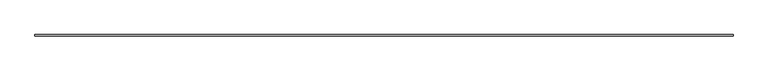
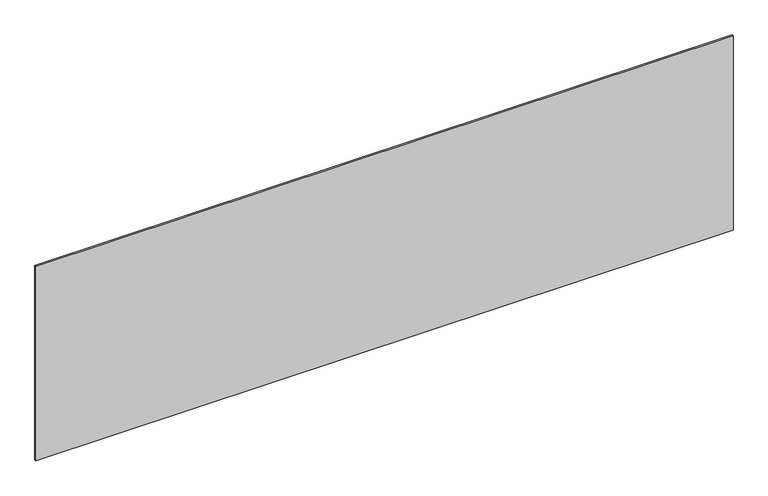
"""IFC4 building model written with IfcOpenShell, lengths in millimetres: plate geometry, システム パネル : 標準."""

from ifc_helpers import new_model, si_unit, origin, origin_with_axes, place, context, project, spatial, polyline, outline, extrude, source, transform, mapped, element, save


def plate_ea210885(model_context):
    return source(origin(), model_context, "Body", "SweptSolid", [
        extrude(outline(polyline([(2281.6666667, -5.0), (-2281.6666667, -5.0), (-2281.6666667, 5.0), (2281.6666667, 5.0), (2281.6666667, -5.0)])), origin_with_axes(), (0.0, 0.0, 1.0), 1345.016358),
    ])


if __name__ == "__main__":
    model = new_model("IFC4")
    model_context = context("Model", 3, world=origin())
    ifc_project = project(units=[si_unit("LENGTHUNIT", "METRE", prefix="MILLI")], contexts=[model_context])
    site = spatial("IfcSite", under=ifc_project)
    building = spatial("IfcBuilding", under=site)
    placement = place(None, origin())
    plate_shape = plate_ea210885(model_context)
    element("IfcPlate", 1, ObjectType="システム パネル : 標準", at=placement, inside=building, context=model_context, shape_type="MappedRepresentation", body=[
        mapped(plate_shape, transform((0.0, 0.0, 0.0), x_axis=(1.0, 0.0, 0.0), y_axis=(0.0, 1.0, 0.0), z_axis=(0.0, 0.0, 1.0))),
    ])
    save(model, "model.ifc")
